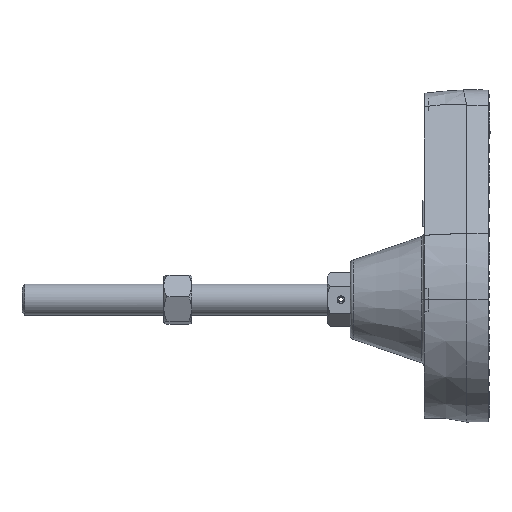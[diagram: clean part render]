
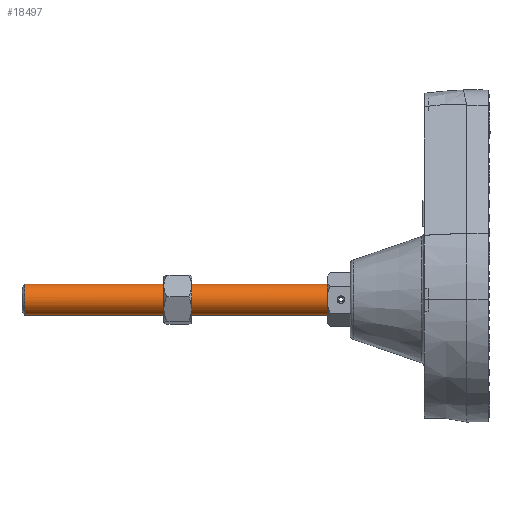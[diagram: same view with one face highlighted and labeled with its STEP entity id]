
A CAD part, left-side view. The second image highlights one B-rep face of the part: STEP entity #18497.
In plain terms, the highlighted cylindrical face has radius 6.35 mm (diameter 12.7 mm), a partial arc.
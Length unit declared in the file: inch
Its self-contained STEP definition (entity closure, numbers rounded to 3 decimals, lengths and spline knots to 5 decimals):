
#805 = ORIENTED_EDGE ( 'NONE', *, *, #9826, .T. ) ;
#1231 = EDGE_CURVE ( 'NONE', #22428, #21712, #16307, .T. ) ;
#1432 = CARTESIAN_POINT ( 'NONE',  ( 2.28464, 0.24805, 0.03136 ) ) ;
#1528 = CARTESIAN_POINT ( 'NONE',  ( 2.18332, 0.24658, 0.04129 ) ) ;
#1613 = CARTESIAN_POINT ( 'NONE',  ( 2.20262, 0.24362, -0.05613 ) ) ;
#1704 = CARTESIAN_POINT ( 'NONE',  ( 2.29251, 0.2499, -0.00823 ) ) ;
#2246 = AXIS2_PLACEMENT_3D ( 'NONE', #20487, #6969, #22727 ) ;
#3713 = CARTESIAN_POINT ( 'NONE',  ( 2.27747, 0.24658, 0.04134 ) ) ;
#3810 = CARTESIAN_POINT ( 'NONE',  ( 2.17622, 0.24804, 0.03139 ) ) ;
#3882 = CARTESIAN_POINT ( 'NONE',  ( 2.22215, 0.24206, -0.0625 ) ) ;
#3987 = CARTESIAN_POINT ( 'NONE',  ( 2.29292, 0.25, 0. ) ) ;
#4509 = ORIENTED_EDGE ( 'NONE', *, *, #27594, .F. ) ;
#4536 = CARTESIAN_POINT ( 'NONE',  ( 0., 0., 0. ) ) ;
#4728 = B_SPLINE_CURVE_WITH_KNOTS ( 'NONE', 3,
 ( #14876, #10445, #26211, #12714, #28465, #14969, #1432, #17265, #3713, #19529, #5991, #21769, #8286, #24020, #10546, #26304, #12807, #28546, #15071, #1528, #17348, #3810, #19624, #6085, #21858, #8386, #24121, #10625 ),
 .UNSPECIFIED., .F., .F.,
 ( 4, 2, 2, 2, 2, 2, 2, 2, 2, 2, 2, 2, 2, 4 ),
 ( 0., 0.00031, 0.00062, 0.00093, 0.00125, 0.00187, 0.00249, 0.0028, 0.00311, 0.00374, 0.00405, 0.00436, 0.00467, 0.00498 ),
 .UNSPECIFIED. ) ;
#5320 = ORIENTED_EDGE ( 'NONE', *, *, #25704, .T. ) ;
#5991 = CARTESIAN_POINT ( 'NONE',  ( 2.26191, 0.24399, 0.0546 ) ) ;
#6085 = CARTESIAN_POINT ( 'NONE',  ( 2.17113, 0.24921, 0.02019 ) ) ;
#6165 = CARTESIAN_POINT ( 'NONE',  ( 2.23859, 0.24217, -0.0621 ) ) ;
#6969 = DIRECTION ( 'NONE',  ( -1., 0., 0. ) ) ;
#7436 = AXIS2_PLACEMENT_3D ( 'NONE', #9444, #25190, #11681 ) ;
#8286 = CARTESIAN_POINT ( 'NONE',  ( 2.23863, 0.24206, 0.0625 ) ) ;
#8369 = CARTESIAN_POINT ( 'NONE',  ( 2.17426, 0.24849, -0.02772 ) ) ;
#8386 = CARTESIAN_POINT ( 'NONE',  ( 2.16833, 0.2499, 0.00824 ) ) ;
#8460 = CARTESIAN_POINT ( 'NONE',  ( 2.25061, 0.24287, -0.05929 ) ) ;
#8575 = EDGE_CURVE ( 'NONE', #20946, #20261, #26096, .T. ) ;
#9444 = CARTESIAN_POINT ( 'NONE',  ( 0.364, 0., 0. ) ) ;
#9826 = EDGE_CURVE ( 'NONE', #13794, #13863, #29137, .T. ) ;
#9980 = CARTESIAN_POINT ( 'NONE',  ( 0.364, 0., 0.25 ) ) ;
#10445 = CARTESIAN_POINT ( 'NONE',  ( 2.29292, 0.25, 0.00415 ) ) ;
#10486 = CARTESIAN_POINT ( 'NONE',  ( 7.3182, 0., 0.25 ) ) ;
#10527 = CARTESIAN_POINT ( 'NONE',  ( 2.16792, 0.25, -0.00818 ) ) ;
#10546 = CARTESIAN_POINT ( 'NONE',  ( 2.22219, 0.24217, 0.06209 ) ) ;
#10607 = CARTESIAN_POINT ( 'NONE',  ( 2.18075, 0.24709, -0.03816 ) ) ;
#10625 = CARTESIAN_POINT ( 'NONE',  ( 2.16792, 0.25, 0. ) ) ;
#10714 = CARTESIAN_POINT ( 'NONE',  ( 2.26885, 0.24503, -0.04995 ) ) ;
#10916 = AXIS2_PLACEMENT_3D ( 'NONE', #4536, #11266, #18075 ) ;
#11266 = DIRECTION ( 'NONE',  ( -1., 0., 0. ) ) ;
#11681 = DIRECTION ( 'NONE',  ( 0., 0., -1. ) ) ;
#12714 = CARTESIAN_POINT ( 'NONE',  ( 2.29091, 0.2495, 0.01623 ) ) ;
#12807 = CARTESIAN_POINT ( 'NONE',  ( 2.21026, 0.24287, 0.0593 ) ) ;
#12886 = CARTESIAN_POINT ( 'NONE',  ( 2.18909, 0.24555, -0.04706 ) ) ;
#12987 = CARTESIAN_POINT ( 'NONE',  ( 2.28498, 0.24812, -0.03155 ) ) ;
#13637 = ORIENTED_EDGE ( 'NONE', *, *, #1231, .T. ) ;
#13794 = VERTEX_POINT ( 'NONE', #29170 ) ;
#13863 = VERTEX_POINT ( 'NONE', #18164 ) ;
#13960 = CARTESIAN_POINT ( 'NONE',  ( 0., 0., 0.25 ) ) ;
#14863 = CIRCLE ( 'NONE', #2246, 0.25 ) ;
#14876 = CARTESIAN_POINT ( 'NONE',  ( 2.29292, 0.25, 0. ) ) ;
#14969 = CARTESIAN_POINT ( 'NONE',  ( 2.28656, 0.24848, 0.02777 ) ) ;
#15053 = CARTESIAN_POINT ( 'NONE',  ( 2.16957, 0.24957, -0.01643 ) ) ;
#15071 = CARTESIAN_POINT ( 'NONE',  ( 2.192, 0.24502, 0.04998 ) ) ;
#15141 = CARTESIAN_POINT ( 'NONE',  ( 2.19903, 0.24406, -0.0542 ) ) ;
#15240 = CARTESIAN_POINT ( 'NONE',  ( 2.2909, 0.2495, -0.01629 ) ) ;
#16269 = CARTESIAN_POINT ( 'NONE',  ( 0.364, 0., -0.25 ) ) ;
#16307 = LINE ( 'NONE', #29115, #27565 ) ;
#17265 = CARTESIAN_POINT ( 'NONE',  ( 2.2801, 0.2471, 0.03814 ) ) ;
#17348 = CARTESIAN_POINT ( 'NONE',  ( 2.18075, 0.2471, 0.03815 ) ) ;
#17438 = CARTESIAN_POINT ( 'NONE',  ( 2.21402, 0.2425, -0.06087 ) ) ;
#17537 = CARTESIAN_POINT ( 'NONE',  ( 2.29292, 0.25, -0.00415 ) ) ;
#17768 = FACE_BOUND ( 'NONE', #18490, .T. ) ;
#18075 = DIRECTION ( 'NONE',  ( 0., 0., 1. ) ) ;
#18164 = CARTESIAN_POINT ( 'NONE',  ( 2.29292, 0.25, 0. ) ) ;
#18490 = EDGE_LOOP ( 'NONE', ( #29102, #805 ) ) ;
#18497 = ADVANCED_FACE ( 'NONE', ( #17768, #26556 ), #23033, .T. ) ;
#18530 = DIRECTION ( 'NONE',  ( -1., 0., 0. ) ) ;
#18828 = EDGE_CURVE ( 'NONE', #13863, #13794, #4728, .T. ) ;
#19529 = CARTESIAN_POINT ( 'NONE',  ( 2.26886, 0.24503, 0.04995 ) ) ;
#19624 = CARTESIAN_POINT ( 'NONE',  ( 2.17426, 0.24849, 0.02773 ) ) ;
#19699 = CARTESIAN_POINT ( 'NONE',  ( 2.23452, 0.24206, -0.0625 ) ) ;
#20106 = VECTOR ( 'NONE', #18530, 39.37008 ) ;
#20261 = VERTEX_POINT ( 'NONE', #9980 ) ;
#20487 = CARTESIAN_POINT ( 'NONE',  ( 7.3182, 0., 0. ) ) ;
#20774 = CIRCLE ( 'NONE', #7436, 0.25 ) ;
#20946 = VERTEX_POINT ( 'NONE', #10486 ) ;
#21712 = VERTEX_POINT ( 'NONE', #16269 ) ;
#21769 = CARTESIAN_POINT ( 'NONE',  ( 2.24688, 0.24251, 0.06084 ) ) ;
#21844 = CARTESIAN_POINT ( 'NONE',  ( 2.16792, 0.25, 0. ) ) ;
#21858 = CARTESIAN_POINT ( 'NONE',  ( 2.16994, 0.2495, 0.01629 ) ) ;
#21940 = CARTESIAN_POINT ( 'NONE',  ( 2.24662, 0.24257, -0.0605 ) ) ;
#22428 = VERTEX_POINT ( 'NONE', #26254 ) ;
#22727 = DIRECTION ( 'NONE',  ( 0., 0., 1. ) ) ;
#23033 = CYLINDRICAL_SURFACE ( 'NONE', #10916, 0.25 ) ;
#24020 = CARTESIAN_POINT ( 'NONE',  ( 2.22635, 0.24206, 0.0625 ) ) ;
#24103 = CARTESIAN_POINT ( 'NONE',  ( 2.17621, 0.24805, -0.03138 ) ) ;
#24121 = CARTESIAN_POINT ( 'NONE',  ( 2.16792, 0.25, 0.00409 ) ) ;
#24206 = CARTESIAN_POINT ( 'NONE',  ( 2.26191, 0.24399, -0.0546 ) ) ;
#24263 = EDGE_LOOP ( 'NONE', ( #5320, #13637, #4509, #26683 ) ) ;
#25190 = DIRECTION ( 'NONE',  ( -1., 0., 0. ) ) ;
#25704 = EDGE_CURVE ( 'NONE', #20946, #22428, #14863, .T. ) ;
#26096 = LINE ( 'NONE', #13960, #20106 ) ;
#26211 = CARTESIAN_POINT ( 'NONE',  ( 2.29251, 0.2499, 0.00822 ) ) ;
#26254 = CARTESIAN_POINT ( 'NONE',  ( 7.3182, 0., -0.25 ) ) ;
#26304 = CARTESIAN_POINT ( 'NONE',  ( 2.21416, 0.24257, 0.06049 ) ) ;
#26382 = CARTESIAN_POINT ( 'NONE',  ( 2.18333, 0.24658, -0.04129 ) ) ;
#26463 = CARTESIAN_POINT ( 'NONE',  ( 2.28033, 0.24709, -0.03849 ) ) ;
#26556 = FACE_OUTER_BOUND ( 'NONE', #24263, .T. ) ;
#26683 = ORIENTED_EDGE ( 'NONE', *, *, #8575, .F. ) ;
#26838 = DIRECTION ( 'NONE',  ( -1., 0., 0. ) ) ;
#27565 = VECTOR ( 'NONE', #26838, 39.37008 ) ;
#27594 = EDGE_CURVE ( 'NONE', #20261, #21712, #20774, .T. ) ;
#28465 = CARTESIAN_POINT ( 'NONE',  ( 2.2897, 0.24921, 0.02021 ) ) ;
#28546 = CARTESIAN_POINT ( 'NONE',  ( 2.19887, 0.24399, 0.05458 ) ) ;
#28627 = CARTESIAN_POINT ( 'NONE',  ( 2.19228, 0.24502, -0.04968 ) ) ;
#28726 = CARTESIAN_POINT ( 'NONE',  ( 2.28968, 0.24921, -0.02027 ) ) ;
#29102 = ORIENTED_EDGE ( 'NONE', *, *, #18828, .T. ) ;
#29115 = CARTESIAN_POINT ( 'NONE',  ( 0., 0., -0.25 ) ) ;
#29137 = B_SPLINE_CURVE_WITH_KNOTS ( 'NONE', 3,
 ( #21844, #10527, #15053, #8369, #24103, #10607, #26382, #12886, #28627, #15141, #1613, #17438, #3882, #19699, #6165, #21940, #8460, #24206, #10714, #26463, #12987, #28726, #15240, #1704, #17537, #3987 ),
 .UNSPECIFIED., .F., .F.,
 ( 4, 2, 2, 2, 2, 2, 2, 2, 2, 2, 2, 2, 4 ),
 ( 0.00498, 0.00561, 0.00592, 0.00623, 0.00654, 0.00685, 0.00747, 0.00779, 0.0081, 0.00872, 0.00934, 0.00965, 0.00996 ),
 .UNSPECIFIED. ) ;
#29170 = CARTESIAN_POINT ( 'NONE',  ( 2.16792, 0.25, 0. ) ) ;
